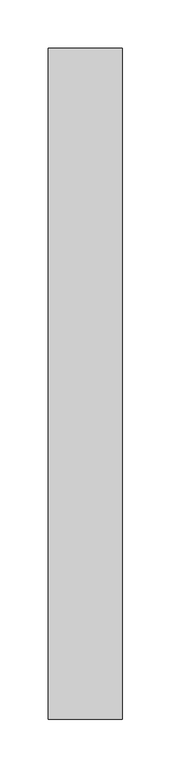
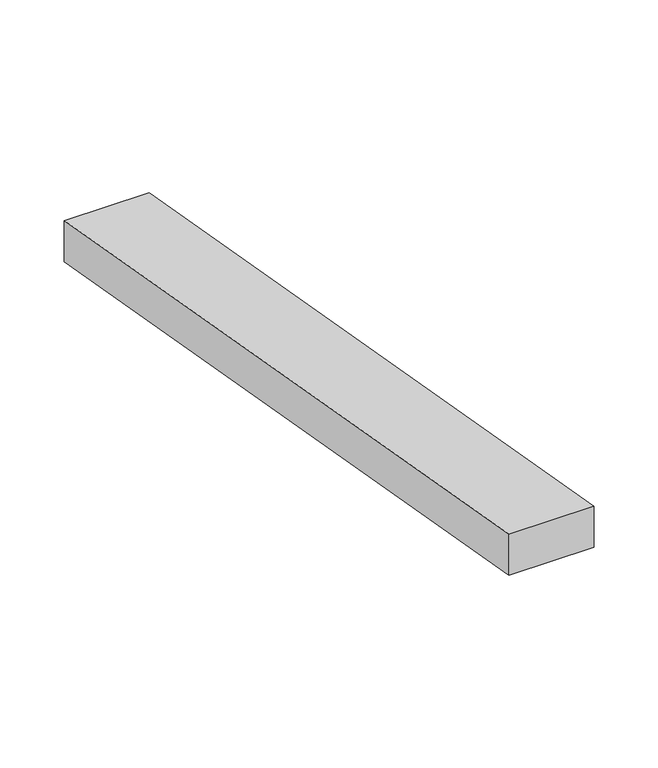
"""IFC4 building model written with IfcOpenShell, lengths in millimetres: proxy geometry, GRADIENT^TABLE 1_OCTAGON LEGS-LEG 1."""

from ifc_helpers import new_model, si_unit, frame, origin, place, context, project, spatial, polyline, outline, extrude, source, transform, mapped, element, save


def generic_models_c88e18ce(model_context):
    return source(origin(), model_context, "Body", "SweptSolid", [
        extrude(outline(polyline([(692.15, 182.7552803), (692.15, 144.0675264), (0.0, 266.1122461), (0.0, 304.8), (692.15, 182.7552803)])), frame((0.0, 0.0, 0.0), z_axis=(1.0, 0.0, 0.0), x_axis=(0.0, 1.0, 0.0)), (0.0, 0.0, 1.0), 76.2),
    ])


if __name__ == "__main__":
    model = new_model("IFC4")
    model_context = context("Model", 3, world=origin())
    ifc_project = project(units=[si_unit("LENGTHUNIT", "METRE", prefix="MILLI")], contexts=[model_context])
    site = spatial("IfcSite", under=ifc_project)
    building = spatial("IfcBuilding", under=site)
    placement = place(None, origin())
    generic_models_shape = generic_models_c88e18ce(model_context)
    element("IfcBuildingElementProxy", 1, Name="GRADIENT^TABLE 1_OCTAGON LEGS-LEG 1", ObjectType="GRADIENT^TABLE 1_OCTAGON LEGS-LEG 1", at=placement, inside=building, context=model_context, shape_type="MappedRepresentation", body=[
        mapped(generic_models_shape, transform((0.0, 0.0, 0.0), x_axis=(1.0, 0.0, 0.0), y_axis=(0.0, 1.0, 0.0), z_axis=(0.0, 0.0, 1.0))),
    ])
    save(model, "model.ifc")
